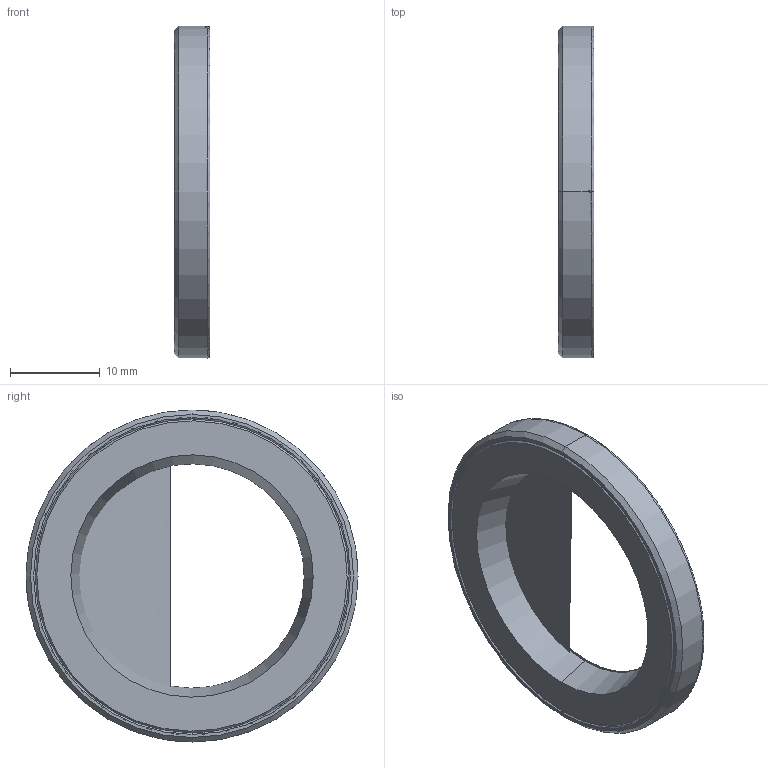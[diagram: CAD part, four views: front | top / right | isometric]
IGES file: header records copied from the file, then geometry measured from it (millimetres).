
Start section: 3D InterOp IGES (Version 21 0 1), Spatial Corp. Copyright (c) 1999-2007.
Global section: file name: DBX-25.igs; native system: Spatial Corp.; preprocessor: 3D InterOp GENERIC/IGES 3.0; author: Noname; organization: Noname; date: 20220216.143405; units: millimetre
Bounding box: 4 x 37 x 37 mm (x, y, z)
Surface area: 4610.4 mm2 (no closed solid volume)
Topology: 0 solids, 0 shells, 43 faces, 188 edges, 180 vertices
Faces by surface type: revolution 36, extrusion 7
